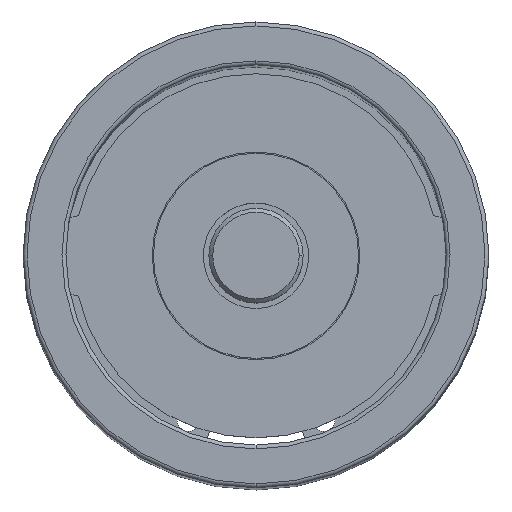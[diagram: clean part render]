
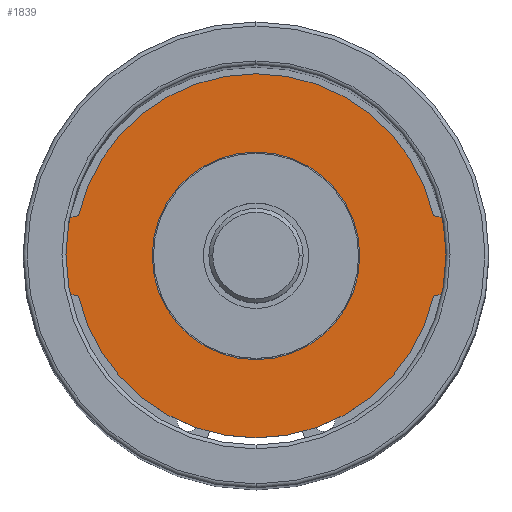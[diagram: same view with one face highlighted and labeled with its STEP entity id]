
A CAD part, top view. The second image highlights one B-rep face of the part: STEP entity #1839.
In plain terms, the highlighted planar face has unit normal (0, 0, 1).
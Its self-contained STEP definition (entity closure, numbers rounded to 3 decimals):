
#1701=CARTESIAN_POINT('',(13.2,0.,0.));
#1702=VERTEX_POINT('',#1701);
#1718=CARTESIAN_POINT('',(-13.2,0.,0.0));
#1719=VERTEX_POINT('',#1718);
#1726=CARTESIAN_POINT('',(0.0,0.,0.0));
#1727=DIRECTION('',(0.0,0.0,-1.0));
#1728=DIRECTION('',(1.0,0.0,0.0));
#1729=AXIS2_PLACEMENT_3D('',#1726,#1727,#1728);
#1730=CIRCLE('',#1729,13.2);
#1731=EDGE_CURVE('',#1702,#1719,#1730,.T.);
#1742=CARTESIAN_POINT('',(0.0,0.,0.0));
#1743=DIRECTION('',(0.0,0.0,-1.0));
#1744=DIRECTION('',(1.0,0.0,0.0));
#1745=AXIS2_PLACEMENT_3D('',#1742,#1743,#1744);
#1746=CIRCLE('',#1745,13.2);
#1747=EDGE_CURVE('',#1719,#1702,#1746,.T.);
#1767=CARTESIAN_POINT('',(-22.574,5.13,0.));
#1768=VERTEX_POINT('',#1767);
#1784=CARTESIAN_POINT('',(-22.574,-5.13,0.));
#1785=VERTEX_POINT('',#1784);
#1792=CARTESIAN_POINT('',(-21.725,0.,0.));
#1793=DIRECTION('',(0.0,0.0,-1.0));
#1794=DIRECTION('',(1.0,0.0,0.0));
#1795=AXIS2_PLACEMENT_3D('',#1792,#1793,#1794);
#1796=CIRCLE('',#1795,5.2);
#1797=EDGE_CURVE('',#1785,#1768,#1796,.T.);
#1802=CARTESIAN_POINT('',(0.0,0.,0.));
#1803=DIRECTION('',(0.0,0.0,1.0));
#1804=DIRECTION('',(1.0,0.0,0.0));
#1805=AXIS2_PLACEMENT_3D('',#1802,#1803,#1804);
#1806=PLANE('',#1805);
#1807=CARTESIAN_POINT('',(22.574,-5.13,0.));
#1808=VERTEX_POINT('',#1807);
#1809=CARTESIAN_POINT('',(0.0,0.,0.));
#1810=DIRECTION('',(0.0,0.0,-1.0));
#1811=DIRECTION('',(1.0,0.0,0.0));
#1812=AXIS2_PLACEMENT_3D('',#1809,#1810,#1811);
#1813=CIRCLE('',#1812,23.15);
#1814=EDGE_CURVE('',#1808,#1785,#1813,.T.);
#1815=ORIENTED_EDGE('',*,*,#1814,.F.);
#1816=CARTESIAN_POINT('',(22.574,5.13,0.));
#1817=VERTEX_POINT('',#1816);
#1818=CARTESIAN_POINT('',(21.725,0.,0.));
#1819=DIRECTION('',(0.0,0.0,-1.0));
#1820=DIRECTION('',(1.0,0.0,0.0));
#1821=AXIS2_PLACEMENT_3D('',#1818,#1819,#1820);
#1822=CIRCLE('',#1821,5.2);
#1823=EDGE_CURVE('',#1817,#1808,#1822,.T.);
#1824=ORIENTED_EDGE('',*,*,#1823,.F.);
#1825=CARTESIAN_POINT('',(0.0,0.,0.));
#1826=DIRECTION('',(0.0,0.0,-1.0));
#1827=DIRECTION('',(1.0,0.0,0.0));
#1828=AXIS2_PLACEMENT_3D('',#1825,#1826,#1827);
#1829=CIRCLE('',#1828,23.15);
#1830=EDGE_CURVE('',#1768,#1817,#1829,.T.);
#1831=ORIENTED_EDGE('',*,*,#1830,.F.);
#1832=ORIENTED_EDGE('',*,*,#1797,.F.);
#1833=EDGE_LOOP('',(#1815,#1824,#1831,#1832));
#1834=FACE_OUTER_BOUND('',#1833,.T.);
#1835=ORIENTED_EDGE('',*,*,#1731,.T.);
#1836=ORIENTED_EDGE('',*,*,#1747,.T.);
#1837=EDGE_LOOP('',(#1835,#1836));
#1838=FACE_BOUND('',#1837,.T.);
#1839=ADVANCED_FACE('',(#1834,#1838),#1806,.T.);
